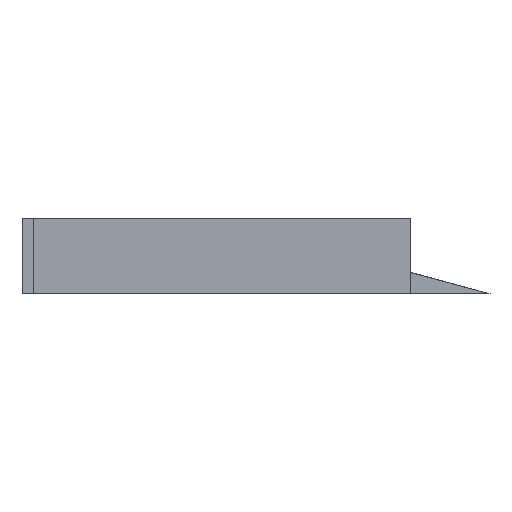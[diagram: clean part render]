
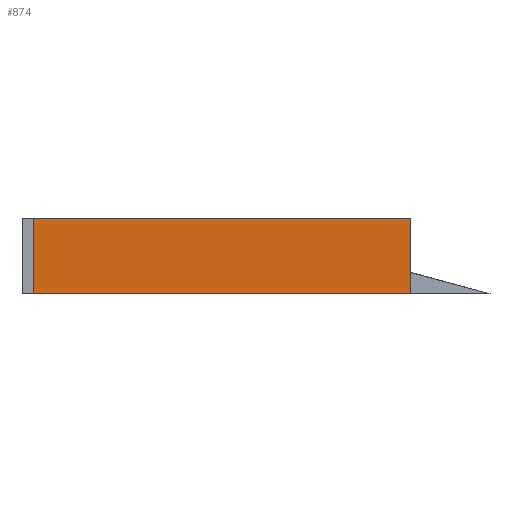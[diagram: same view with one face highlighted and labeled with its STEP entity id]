
A CAD part, left-side view. The second image highlights one B-rep face of the part: STEP entity #874.
In plain terms, the highlighted planar face has unit normal (-1, 0, 0).
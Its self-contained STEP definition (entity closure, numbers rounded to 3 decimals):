
#44 = PLANE('',#45);
#45 = AXIS2_PLACEMENT_3D('',#46,#47,#48);
#46 = CARTESIAN_POINT('',(19.229,5.59,0.));
#47 = DIRECTION('',(-0.,-0.,-1.));
#48 = DIRECTION('',(-1.,0.,0.));
#96 = PLANE('',#97);
#97 = AXIS2_PLACEMENT_3D('',#98,#99,#100);
#98 = CARTESIAN_POINT('',(-28.,2.1,0.));
#99 = DIRECTION('',(0.,1.,0.));
#100 = DIRECTION('',(1.,0.,0.));
#113 = VERTEX_POINT('',#114);
#114 = CARTESIAN_POINT('',(-28.,2.1,0.));
#135 = EDGE_CURVE('',#136,#113,#138,.T.);
#136 = VERTEX_POINT('',#137);
#137 = CARTESIAN_POINT('',(-28.,12.1,0.));
#138 = SURFACE_CURVE('',#139,(#143,#150),.PCURVE_S1.);
#139 = LINE('',#140,#141);
#140 = CARTESIAN_POINT('',(-28.,12.1,0.));
#141 = VECTOR('',#142,1.);
#142 = DIRECTION('',(0.,-1.,0.));
#143 = PCURVE('',#44,#144);
#144 = DEFINITIONAL_REPRESENTATION('',(#145),#149);
#145 = LINE('',#146,#147);
#146 = CARTESIAN_POINT('',(47.229,6.51));
#147 = VECTOR('',#148,1.);
#148 = DIRECTION('',(0.,-1.));
#149 = ( GEOMETRIC_REPRESENTATION_CONTEXT(2) 
PARAMETRIC_REPRESENTATION_CONTEXT() REPRESENTATION_CONTEXT('2D SPACE',''
  ) );
#150 = PCURVE('',#151,#156);
#151 = PLANE('',#152);
#152 = AXIS2_PLACEMENT_3D('',#153,#154,#155);
#153 = CARTESIAN_POINT('',(-28.,12.1,0.));
#154 = DIRECTION('',(1.,0.,-0.));
#155 = DIRECTION('',(0.,-1.,0.));
#156 = DEFINITIONAL_REPRESENTATION('',(#157),#161);
#157 = LINE('',#158,#159);
#158 = CARTESIAN_POINT('',(0.,0.));
#159 = VECTOR('',#160,1.);
#160 = DIRECTION('',(1.,0.));
#161 = ( GEOMETRIC_REPRESENTATION_CONTEXT(2) 
PARAMETRIC_REPRESENTATION_CONTEXT() REPRESENTATION_CONTEXT('2D SPACE',''
  ) );
#179 = PLANE('',#180);
#180 = AXIS2_PLACEMENT_3D('',#181,#182,#183);
#181 = CARTESIAN_POINT('',(0.,12.1,0.));
#182 = DIRECTION('',(0.,-1.,0.));
#183 = DIRECTION('',(-1.,0.,0.));
#388 = EDGE_CURVE('',#113,#389,#391,.T.);
#389 = VERTEX_POINT('',#390);
#390 = CARTESIAN_POINT('',(-28.,2.1,2.));
#391 = SURFACE_CURVE('',#392,(#396,#403),.PCURVE_S1.);
#392 = LINE('',#393,#394);
#393 = CARTESIAN_POINT('',(-28.,2.1,0.));
#394 = VECTOR('',#395,1.);
#395 = DIRECTION('',(0.,0.,1.));
#396 = PCURVE('',#96,#397);
#397 = DEFINITIONAL_REPRESENTATION('',(#398),#402);
#398 = LINE('',#399,#400);
#399 = CARTESIAN_POINT('',(0.,0.));
#400 = VECTOR('',#401,1.);
#401 = DIRECTION('',(0.,-1.));
#402 = ( GEOMETRIC_REPRESENTATION_CONTEXT(2) 
PARAMETRIC_REPRESENTATION_CONTEXT() REPRESENTATION_CONTEXT('2D SPACE',''
  ) );
#403 = PCURVE('',#151,#404);
#404 = DEFINITIONAL_REPRESENTATION('',(#405),#409);
#405 = LINE('',#406,#407);
#406 = CARTESIAN_POINT('',(10.,0.));
#407 = VECTOR('',#408,1.);
#408 = DIRECTION('',(0.,-1.));
#409 = ( GEOMETRIC_REPRESENTATION_CONTEXT(2) 
PARAMETRIC_REPRESENTATION_CONTEXT() REPRESENTATION_CONTEXT('2D SPACE',''
  ) );
#427 = PLANE('',#428);
#428 = AXIS2_PLACEMENT_3D('',#429,#430,#431);
#429 = CARTESIAN_POINT('',(-14.,7.1,2.));
#430 = DIRECTION('',(0.,0.,1.));
#431 = DIRECTION('',(1.,0.,-0.));
#874 = ADVANCED_FACE('',(#875),#151,.F.);
#875 = FACE_BOUND('',#876,.F.);
#876 = EDGE_LOOP('',(#877,#900,#921,#922));
#877 = ORIENTED_EDGE('',*,*,#878,.T.);
#878 = EDGE_CURVE('',#136,#879,#881,.T.);
#879 = VERTEX_POINT('',#880);
#880 = CARTESIAN_POINT('',(-28.,12.1,2.));
#881 = SURFACE_CURVE('',#882,(#886,#893),.PCURVE_S1.);
#882 = LINE('',#883,#884);
#883 = CARTESIAN_POINT('',(-28.,12.1,0.));
#884 = VECTOR('',#885,1.);
#885 = DIRECTION('',(0.,0.,1.));
#886 = PCURVE('',#151,#887);
#887 = DEFINITIONAL_REPRESENTATION('',(#888),#892);
#888 = LINE('',#889,#890);
#889 = CARTESIAN_POINT('',(0.,0.));
#890 = VECTOR('',#891,1.);
#891 = DIRECTION('',(0.,-1.));
#892 = ( GEOMETRIC_REPRESENTATION_CONTEXT(2) 
PARAMETRIC_REPRESENTATION_CONTEXT() REPRESENTATION_CONTEXT('2D SPACE',''
  ) );
#893 = PCURVE('',#179,#894);
#894 = DEFINITIONAL_REPRESENTATION('',(#895),#899);
#895 = LINE('',#896,#897);
#896 = CARTESIAN_POINT('',(28.,0.));
#897 = VECTOR('',#898,1.);
#898 = DIRECTION('',(0.,-1.));
#899 = ( GEOMETRIC_REPRESENTATION_CONTEXT(2) 
PARAMETRIC_REPRESENTATION_CONTEXT() REPRESENTATION_CONTEXT('2D SPACE',''
  ) );
#900 = ORIENTED_EDGE('',*,*,#901,.T.);
#901 = EDGE_CURVE('',#879,#389,#902,.T.);
#902 = SURFACE_CURVE('',#903,(#907,#914),.PCURVE_S1.);
#903 = LINE('',#904,#905);
#904 = CARTESIAN_POINT('',(-28.,12.1,2.));
#905 = VECTOR('',#906,1.);
#906 = DIRECTION('',(0.,-1.,0.));
#907 = PCURVE('',#151,#908);
#908 = DEFINITIONAL_REPRESENTATION('',(#909),#913);
#909 = LINE('',#910,#911);
#910 = CARTESIAN_POINT('',(0.,-2.));
#911 = VECTOR('',#912,1.);
#912 = DIRECTION('',(1.,0.));
#913 = ( GEOMETRIC_REPRESENTATION_CONTEXT(2) 
PARAMETRIC_REPRESENTATION_CONTEXT() REPRESENTATION_CONTEXT('2D SPACE',''
  ) );
#914 = PCURVE('',#427,#915);
#915 = DEFINITIONAL_REPRESENTATION('',(#916),#920);
#916 = LINE('',#917,#918);
#917 = CARTESIAN_POINT('',(-14.,5.));
#918 = VECTOR('',#919,1.);
#919 = DIRECTION('',(0.,-1.));
#920 = ( GEOMETRIC_REPRESENTATION_CONTEXT(2) 
PARAMETRIC_REPRESENTATION_CONTEXT() REPRESENTATION_CONTEXT('2D SPACE',''
  ) );
#921 = ORIENTED_EDGE('',*,*,#388,.F.);
#922 = ORIENTED_EDGE('',*,*,#135,.F.);
